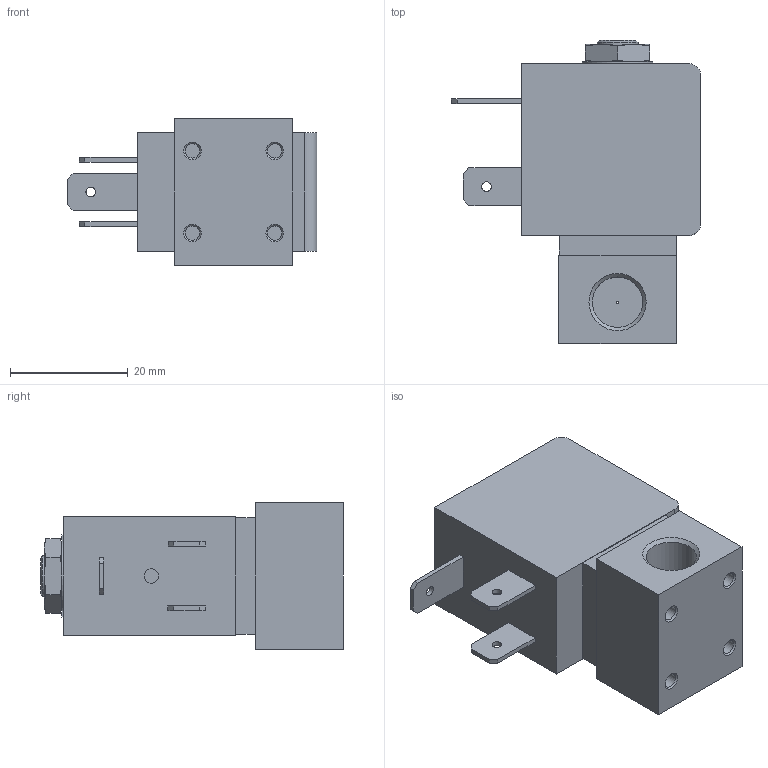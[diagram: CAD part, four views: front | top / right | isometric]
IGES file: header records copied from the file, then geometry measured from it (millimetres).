
Start section: Data from Parasolid IGES Translator 26.0.171, Copyright(c) 2006 Siemens PLM Software. All Rights Reserved.
Global section: file name: 7011-00390040Plunger_valve_2_2_way_direct_acting.igs; native system: By Siemens PLM Incorporated; preprocessor: XPlus GENERIC/IGES 26.0.171; author: Noname; organization: Noname; date: 20250518.141514; units: millimetre
Bounding box: 42.45 x 51.55 x 25 mm (x, y, z)
Surface area: 7331.9 mm2 (no closed solid volume)
Topology: 0 solids, 0 shells, 115 faces, 546 edges, 518 vertices
Faces by surface type: extrusion 75, revolution 40
